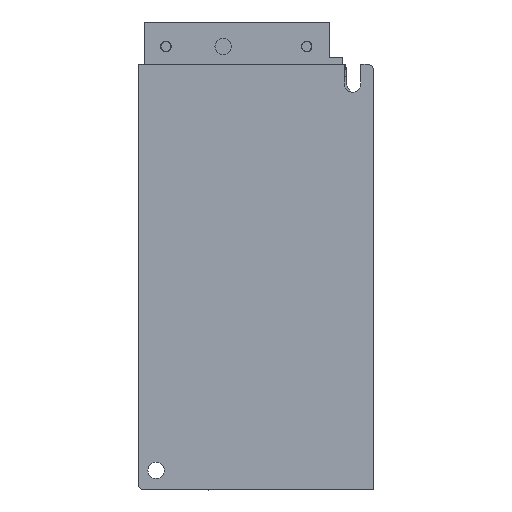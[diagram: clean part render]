
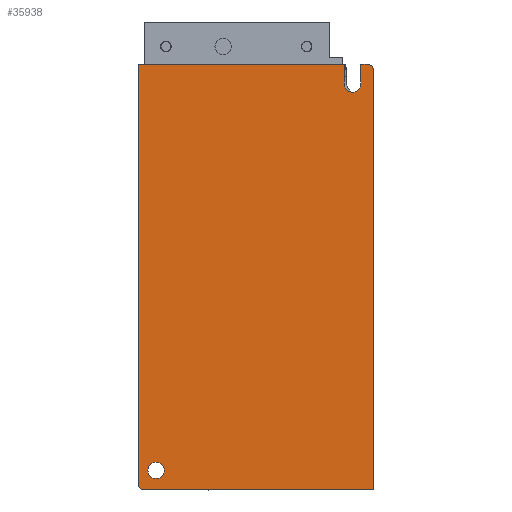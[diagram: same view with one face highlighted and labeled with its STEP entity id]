
A CAD part, front view. The second image highlights one B-rep face of the part: STEP entity #35938.
In plain terms, the highlighted planar face has unit normal (0, -1, 0).
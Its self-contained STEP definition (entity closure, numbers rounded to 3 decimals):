
#765=DIRECTION('',(1.,0.,0.));
#766=VECTOR('',#765,70.);
#767=CARTESIAN_POINT('',(-36.,-25.,130.));
#768=LINE('',#767,#766);
#9580=DIRECTION('',(0.,0.,1.));
#9581=VECTOR('',#9580,128.);
#9582=CARTESIAN_POINT('',(-36.,-25.,2.));
#9583=LINE('',#9582,#9581);
#9592=CARTESIAN_POINT('',(-34.,-25.,2.));
#9593=DIRECTION('',(0.,-1.,0.));
#9594=DIRECTION('',(-1.,0.,0.));
#9595=AXIS2_PLACEMENT_3D('',#9592,#9593,#9594);
#9597=CARTESIAN_POINT('',(34.,-25.,128.));
#9598=DIRECTION('',(0.,-1.,0.));
#9599=DIRECTION('',(1.,0.,0.));
#9600=AXIS2_PLACEMENT_3D('',#9597,#9598,#9599);
#9602=DIRECTION('',(0.,0.,1.));
#9603=VECTOR('',#9602,128.);
#9604=CARTESIAN_POINT('',(36.,-25.,0.));
#9605=LINE('',#9604,#9603);
#9606=DIRECTION('',(1.,0.,0.));
#9607=VECTOR('',#9606,63.);
#9608=CARTESIAN_POINT('',(-27.,-25.,0.));
#9609=LINE('',#9608,#9607);
#9610=DIRECTION('',(0.,0.,-1.));
#9611=VECTOR('',#9610,6.);
#9612=CARTESIAN_POINT('',(-27.,-25.,6.));
#9613=LINE('',#9612,#9611);
#9614=CARTESIAN_POINT('',(-29.5,-25.,6.));
#9615=DIRECTION('',(0.,1.,0.));
#9616=DIRECTION('',(-1.,0.,0.));
#9617=AXIS2_PLACEMENT_3D('',#9614,#9615,#9616);
#9619=DIRECTION('',(1.,0.,0.));
#9620=VECTOR('',#9619,2.);
#9621=CARTESIAN_POINT('',(-34.,-25.,0.));
#9622=LINE('',#9621,#9620);
#9623=CARTESIAN_POINT('',(30.5,-25.,124.));
#9624=DIRECTION('',(0.,1.,0.));
#9625=DIRECTION('',(-1.,0.,0.));
#9626=AXIS2_PLACEMENT_3D('',#9623,#9624,#9625);
#9628=CARTESIAN_POINT('',(30.5,-25.,124.));
#9629=DIRECTION('',(0.,1.,0.));
#9630=DIRECTION('',(1.,0.,0.));
#9631=AXIS2_PLACEMENT_3D('',#9628,#9629,#9630);
#9688=DIRECTION('',(0.,0.,-1.));
#9689=VECTOR('',#9688,6.);
#9690=CARTESIAN_POINT('',(-32.,-25.,6.));
#9691=LINE('',#9690,#9689);
#15049=CARTESIAN_POINT('',(-36.,-25.,130.));
#15050=VERTEX_POINT('',#15049);
#15051=CARTESIAN_POINT('',(34.,-25.,130.));
#15052=VERTEX_POINT('',#15051);
#18259=CARTESIAN_POINT('',(-32.,-25.,6.));
#18260=CARTESIAN_POINT('',(-27.,-25.,6.));
#18261=VERTEX_POINT('',#18259);
#18262=VERTEX_POINT('',#18260);
#18268=CARTESIAN_POINT('',(-32.,-25.,0.));
#18270=VERTEX_POINT('',#18268);
#18272=CARTESIAN_POINT('',(-34.,-25.,0.));
#18274=VERTEX_POINT('',#18272);
#18275=CARTESIAN_POINT('',(-36.,-25.,2.));
#18277=VERTEX_POINT('',#18275);
#18280=CARTESIAN_POINT('',(-27.,-25.,0.));
#18282=VERTEX_POINT('',#18280);
#18283=CARTESIAN_POINT('',(36.,-25.,128.));
#18285=VERTEX_POINT('',#18283);
#18287=CARTESIAN_POINT('',(36.,-25.,0.));
#18288=VERTEX_POINT('',#18287);
#18734=CARTESIAN_POINT('',(33.,-25.,124.));
#18736=VERTEX_POINT('',#18734);
#18740=CARTESIAN_POINT('',(28.,-25.,124.));
#18741=VERTEX_POINT('',#18740);
#35911=CARTESIAN_POINT('',(-36.,-25.,130.));
#35912=DIRECTION('',(0.,-1.,0.));
#35913=DIRECTION('',(1.,0.,0.));
#35914=AXIS2_PLACEMENT_3D('',#35911,#35912,#35913);
#35915=PLANE('',#35914);
#35916=ORIENTED_EDGE('',*,*,#35895,.F.);
#35917=ORIENTED_EDGE('',*,*,#35877,.T.);
#35918=ORIENTED_EDGE('',*,*,#19940,.T.);
#35919=ORIENTED_EDGE('',*,*,#34910,.F.);
#35920=ORIENTED_EDGE('',*,*,#34937,.F.);
#35921=ORIENTED_EDGE('',*,*,#35063,.F.);
#35923=ORIENTED_EDGE('',*,*,#35922,.F.);
#35925=ORIENTED_EDGE('',*,*,#35924,.F.);
#35927=ORIENTED_EDGE('',*,*,#35926,.T.);
#35929=ORIENTED_EDGE('',*,*,#35928,.F.);
#35930=EDGE_LOOP('',(#35916,#35917,#35918,#35919,#35920,#35921,#35923,#35925,
#35927,#35929));
#35931=FACE_OUTER_BOUND('',#35930,.F.);
#35933=ORIENTED_EDGE('',*,*,#35932,.F.);
#35935=ORIENTED_EDGE('',*,*,#35934,.F.);
#35936=EDGE_LOOP('',(#35933,#35935));
#35937=FACE_BOUND('',#35936,.F.);
#9596=CIRCLE('',#9595,2.);
#9601=CIRCLE('',#9600,2.);
#9618=CIRCLE('',#9617,2.5);
#9627=CIRCLE('',#9626,2.5);
#9632=CIRCLE('',#9631,2.5);
#19940=EDGE_CURVE('',#15050,#15052,#768,.T.);
#34910=EDGE_CURVE('',#18285,#15052,#9601,.T.);
#34937=EDGE_CURVE('',#18288,#18285,#9605,.T.);
#35063=EDGE_CURVE('',#18282,#18288,#9609,.T.);
#35877=EDGE_CURVE('',#18277,#15050,#9583,.T.);
#35895=EDGE_CURVE('',#18277,#18274,#9596,.T.);
#35922=EDGE_CURVE('',#18262,#18282,#9613,.T.);
#35924=EDGE_CURVE('',#18261,#18262,#9618,.T.);
#35926=EDGE_CURVE('',#18261,#18270,#9691,.T.);
#35928=EDGE_CURVE('',#18274,#18270,#9622,.T.);
#35932=EDGE_CURVE('',#18741,#18736,#9627,.T.);
#35934=EDGE_CURVE('',#18736,#18741,#9632,.T.);
#35938=ADVANCED_FACE('',(#35931,#35937),#35915,.T.);
